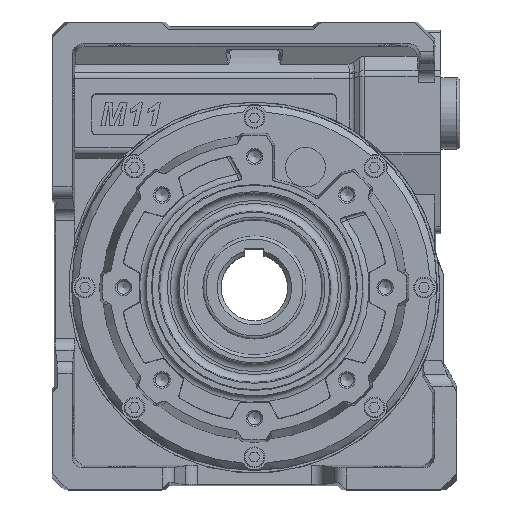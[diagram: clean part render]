
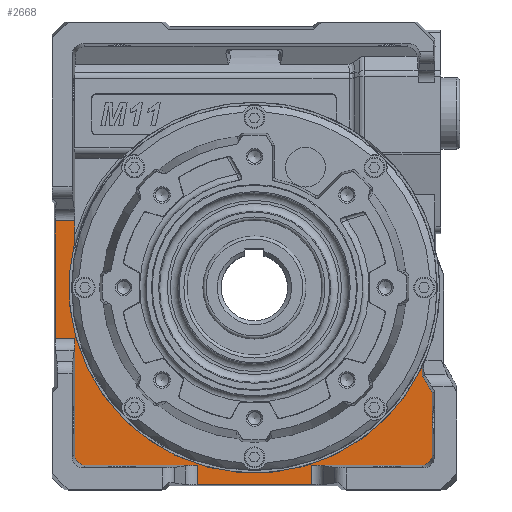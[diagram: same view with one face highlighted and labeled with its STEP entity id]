
A CAD part, top view. The second image highlights one B-rep face of the part: STEP entity #2668.
In plain terms, the highlighted planar face has unit normal (0, 0, 1).
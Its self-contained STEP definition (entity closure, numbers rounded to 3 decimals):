
#2668 = ADVANCED_FACE( '', ( #5871 ), #5872, .F. );
#5871 = FACE_OUTER_BOUND( '', #11993, .T. );
#5872 = PLANE( '', #11994 );
#11993 = EDGE_LOOP( '', ( #20892, #20893, #20894, #20895, #20896, #20897, #20898, #20899, #20900, #20901, #20902, #20903, #20904, #20905, #20906, #20907 ) );
#11994 = AXIS2_PLACEMENT_3D( '', #20908, #20909, #20910 );
#20892 = ORIENTED_EDGE( '', *, *, #27052, .F. );
#20893 = ORIENTED_EDGE( '', *, *, #27053, .T. );
#20894 = ORIENTED_EDGE( '', *, *, #26797, .T. );
#20895 = ORIENTED_EDGE( '', *, *, #27054, .T. );
#20896 = ORIENTED_EDGE( '', *, *, #27055, .T. );
#20897 = ORIENTED_EDGE( '', *, *, #25955, .T. );
#20898 = ORIENTED_EDGE( '', *, *, #25112, .T. );
#20899 = ORIENTED_EDGE( '', *, *, #27056, .T. );
#20900 = ORIENTED_EDGE( '', *, *, #27057, .T. );
#20901 = ORIENTED_EDGE( '', *, *, #24157, .F. );
#20902 = ORIENTED_EDGE( '', *, *, #26468, .T. );
#20903 = ORIENTED_EDGE( '', *, *, #24480, .T. );
#20904 = ORIENTED_EDGE( '', *, *, #26921, .T. );
#20905 = ORIENTED_EDGE( '', *, *, #24244, .T. );
#20906 = ORIENTED_EDGE( '', *, *, #26252, .T. );
#20907 = ORIENTED_EDGE( '', *, *, #25838, .T. );
#20908 = CARTESIAN_POINT( '', ( 0., 0., 42.5 ) );
#20909 = DIRECTION( '', ( 0., 0., -1. ) );
#20910 = DIRECTION( '', ( 0., -1., 0. ) );
#24157 = EDGE_CURVE( '', #28210, #28212, #28213, .T. );
#24244 = EDGE_CURVE( '', #28362, #28363, #28364, .F. );
#24480 = EDGE_CURVE( '', #28777, #28775, #28778, .F. );
#25112 = EDGE_CURVE( '', #29837, #29835, #29838, .F. );
#25838 = EDGE_CURVE( '', #30962, #30960, #30963, .F. );
#25955 = EDGE_CURVE( '', #31131, #29837, #31132, .F. );
#26252 = EDGE_CURVE( '', #28363, #30962, #31569, .F. );
#26468 = EDGE_CURVE( '', #28210, #28777, #31878, .F. );
#26797 = EDGE_CURVE( '', #32302, #32304, #32306, .F. );
#26921 = EDGE_CURVE( '', #28775, #28362, #32465, .F. );
#27052 = EDGE_CURVE( '', #32621, #30960, #32622, .F. );
#27053 = EDGE_CURVE( '', #32621, #32302, #32623, .F. );
#27054 = EDGE_CURVE( '', #32304, #32624, #32625, .T. );
#27055 = EDGE_CURVE( '', #32624, #31131, #32626, .F. );
#27056 = EDGE_CURVE( '', #29835, #32627, #32628, .F. );
#27057 = EDGE_CURVE( '', #32627, #28212, #32629, .F. );
#28210 = VERTEX_POINT( '', #34559 );
#28212 = VERTEX_POINT( '', #34561 );
#28213 = LINE( '', #34562, #34563 );
#28362 = VERTEX_POINT( '', #34961 );
#28363 = VERTEX_POINT( '', #34962 );
#28364 = LINE( '', #34963, #34964 );
#28775 = VERTEX_POINT( '', #35935 );
#28777 = VERTEX_POINT( '', #35938 );
#28778 = LINE( '', #35939, #35940 );
#29835 = VERTEX_POINT( '', #39464 );
#29837 = VERTEX_POINT( '', #39467 );
#29838 = ELLIPSE( '', #39468, 7.019, 7. );
#30960 = VERTEX_POINT( '', #41888 );
#30962 = VERTEX_POINT( '', #41890 );
#30963 = LINE( '', #41891, #41892 );
#31131 = VERTEX_POINT( '', #42119 );
#31132 = LINE( '', #42120, #42121 );
#31569 = LINE( '', #43144, #43145 );
#31878 = LINE( '', #44022, #44023 );
#32302 = VERTEX_POINT( '', #45136 );
#32304 = VERTEX_POINT( '', #45138 );
#32306 = LINE( '', #45140, #45141 );
#32465 = ELLIPSE( '', #45606, 7.019, 7. );
#32621 = VERTEX_POINT( '', #46053 );
#32622 = CIRCLE( '', #46054, 117. );
#32623 = LINE( '', #46055, #46056 );
#32624 = VERTEX_POINT( '', #46057 );
#32625 = LINE( '', #46058, #46059 );
#32626 = LINE( '', #46060, #46061 );
#32627 = VERTEX_POINT( '', #46062 );
#32628 = LINE( '', #46063, #46064 );
#32629 = LINE( '', #46065, #46066 );
#34559 = CARTESIAN_POINT( '', ( 36.033, -124.52, 42.5 ) );
#34561 = CARTESIAN_POINT( '', ( -36.033, -124.52, 42.5 ) );
#34562 = CARTESIAN_POINT( '', ( 0., -124.52, 42.5 ) );
#34563 = VECTOR( '', #48617, 1000. );
#34961 = CARTESIAN_POINT( '', ( 112.18, -105.19, 42.5 ) );
#34962 = CARTESIAN_POINT( '', ( 112.18, -66.175, 42.5 ) );
#34963 = CARTESIAN_POINT( '', ( 112.18, 29., 42.5 ) );
#34964 = VECTOR( '', #48716, 1000. );
#35935 = CARTESIAN_POINT( '', ( 105.19, -112.18, 42.5 ) );
#35938 = CARTESIAN_POINT( '', ( 36.033, -112.18, 42.5 ) );
#35939 = CARTESIAN_POINT( '', ( 0., -112.18, 42.5 ) );
#35940 = VECTOR( '', #48954, 1000. );
#39464 = CARTESIAN_POINT( '', ( -106.44, -112.18, 42.5 ) );
#39467 = CARTESIAN_POINT( '', ( -113.43, -105.19, 42.5 ) );
#39468 = AXIS2_PLACEMENT_3D( '', #49650, #49651, #49652 );
#41888 = CARTESIAN_POINT( '', ( 105.98, -49.57, 42.5 ) );
#41890 = CARTESIAN_POINT( '', ( 105.98, -55.436, 42.5 ) );
#41891 = CARTESIAN_POINT( '', ( 105.98, 29., 42.5 ) );
#41892 = VECTOR( '', #50426, 1000. );
#42119 = CARTESIAN_POINT( '', ( -113.43, -32.033, 42.5 ) );
#42120 = CARTESIAN_POINT( '', ( -113.43, 29., 42.5 ) );
#42121 = VECTOR( '', #50537, 1000. );
#43144 = CARTESIAN_POINT( '', ( 42.923, 53.782, 42.5 ) );
#43145 = VECTOR( '', #50855, 1000. );
#44022 = CARTESIAN_POINT( '', ( 36.033, 0., 42.5 ) );
#44023 = VECTOR( '', #51038, 1000. );
#45136 = CARTESIAN_POINT( '', ( -113.43, 42.033, 42.5 ) );
#45138 = CARTESIAN_POINT( '', ( -125.77, 42.033, 42.5 ) );
#45140 = CARTESIAN_POINT( '', ( -125.77, 42.033, 42.5 ) );
#45141 = VECTOR( '', #51374, 1000. );
#45606 = AXIS2_PLACEMENT_3D( '', #51504, #51505, #51506 );
#46053 = CARTESIAN_POINT( '', ( -113.43, 28.681, 42.5 ) );
#46054 = AXIS2_PLACEMENT_3D( '', #51601, #51602, #51603 );
#46055 = CARTESIAN_POINT( '', ( -113.43, 0., 42.5 ) );
#46056 = VECTOR( '', #51604, 1000. );
#46057 = CARTESIAN_POINT( '', ( -125.77, -32.033, 42.5 ) );
#46058 = CARTESIAN_POINT( '', ( -125.77, 29., 42.5 ) );
#46059 = VECTOR( '', #51605, 1000. );
#46060 = CARTESIAN_POINT( '', ( -113.43, -32.033, 42.5 ) );
#46061 = VECTOR( '', #51606, 1000. );
#46062 = CARTESIAN_POINT( '', ( -36.033, -112.18, 42.5 ) );
#46063 = CARTESIAN_POINT( '', ( 0., -112.18, 42.5 ) );
#46064 = VECTOR( '', #51607, 1000. );
#46065 = CARTESIAN_POINT( '', ( -36.033, 0., 42.5 ) );
#46066 = VECTOR( '', #51608, 1000. );
#48617 = DIRECTION( '', ( -1., 0., 0. ) );
#48716 = DIRECTION( '', ( 0., -1., 0. ) );
#48954 = DIRECTION( '', ( -1., 0., 0. ) );
#49650 = CARTESIAN_POINT( '', ( -106.421, -105.171, 42.5 ) );
#49651 = DIRECTION( '', ( 0., 0., -1. ) );
#49652 = DIRECTION( '', ( -0.707, -0.707, 0. ) );
#50426 = DIRECTION( '', ( 0., -1., 0. ) );
#50537 = DIRECTION( '', ( 0., 1., 0. ) );
#50855 = DIRECTION( '', ( 0.5, -0.866, 0. ) );
#51038 = DIRECTION( '', ( 0., -1., 0. ) );
#51374 = DIRECTION( '', ( 1., 0., 0. ) );
#51504 = CARTESIAN_POINT( '', ( 105.171, -105.171, 42.5 ) );
#51505 = DIRECTION( '', ( 0., 0., -1. ) );
#51506 = DIRECTION( '', ( 0.707, -0.707, 0. ) );
#51601 = CARTESIAN_POINT( '', ( 0., 0., 42.5 ) );
#51602 = DIRECTION( '', ( 0., 0., -1. ) );
#51603 = DIRECTION( '', ( 0., -1., 0. ) );
#51604 = DIRECTION( '', ( 0., -1., 0. ) );
#51605 = DIRECTION( '', ( 0., -1., 0. ) );
#51606 = DIRECTION( '', ( -1., 0., 0. ) );
#51607 = DIRECTION( '', ( -1., 0., 0. ) );
#51608 = DIRECTION( '', ( 0., 1., 0. ) );
